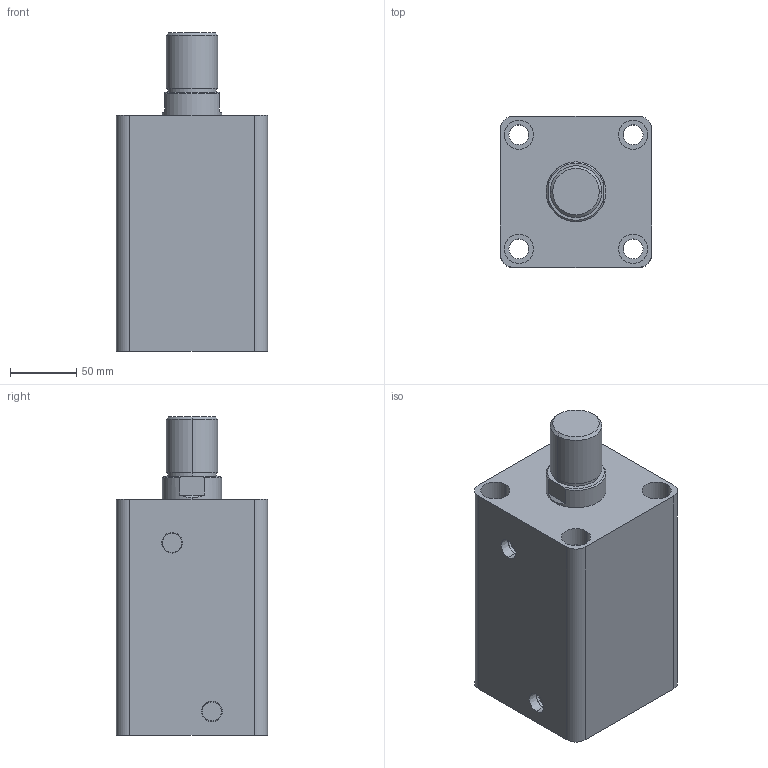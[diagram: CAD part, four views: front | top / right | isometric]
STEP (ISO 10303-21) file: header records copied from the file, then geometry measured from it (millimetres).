
FILE_DESCRIPTION (( 'STEP AP203' ), '1' );
FILE_NAME ('HTB-SD80-100W.STEP', '2019-10-07T08:43:03', ( '微软用户' ), ( '微软中国' ), 'SwSTEP 2.0', 'SolidWorks 2012', '' );
FILE_SCHEMA (( 'CONFIG_CONTROL_DESIGN' ));
Length unit declared in the file: millimetre
Products named in the file (3): HTB-SD80-100W; HTB-SD80-100W活塞杆; HTB-SD80-100掛极
Assembly tree (2 placements, depth 2):
  HTB-SD80-100W
    HTB-SD80-100掛极
    HTB-SD80-100W活塞杆
Bounding box: 114 x 114 x 240 mm (x, y, z)
Volume: 1879715.6 mm3; surface area: 228183.1 mm2
Topology: 2 solids, 2 shells, 87 faces, 190 edges, 124 vertices
Faces by surface type: cylinder 44, plane 29, cone 8, torus 6
Entity records: 2761 total; most frequent: DIRECTION 478, CARTESIAN_POINT 434, ORIENTED_EDGE 380, AXIS2_PLACEMENT_3D 204, EDGE_CURVE 190, VERTEX_POINT 124, EDGE_LOOP 112, CIRCLE 112
